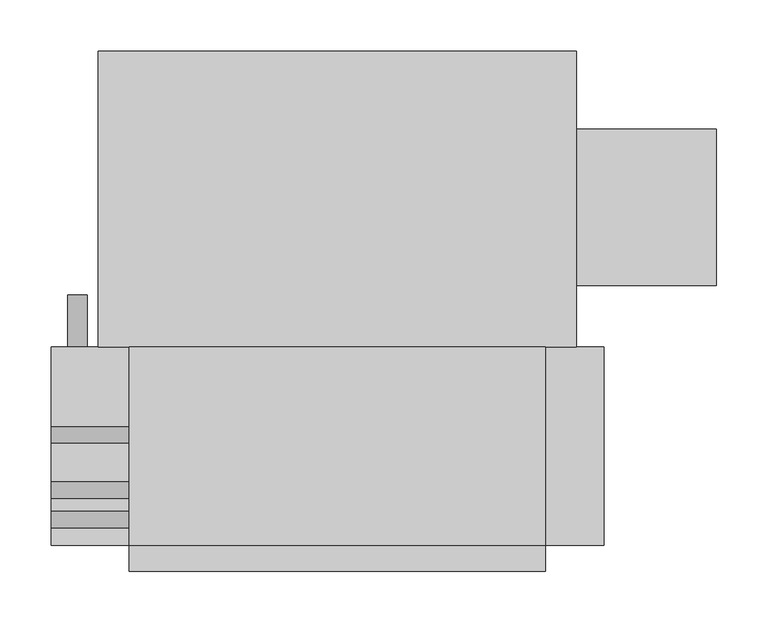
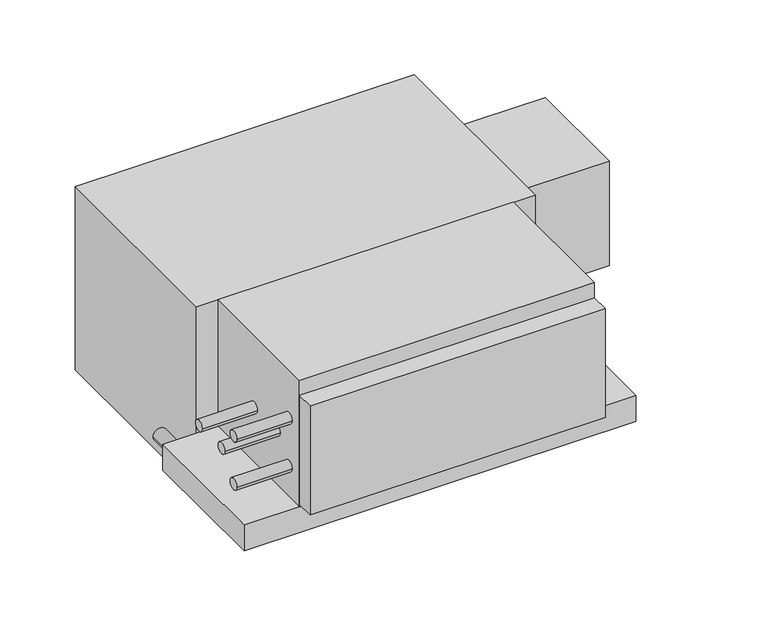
"""IFC4 building model written with IfcOpenShell, lengths in millimetres: proxy geometry, Concealed_Horizontal_Fan_Coil_Unit_With_Plenum_-_42CEA_-_CARRIER_-_4-Pipe_LH_2022 : Size 02 - 277v/60Hz/1Ph - 4/1 Coil."""

from ifc_helpers import new_model, si_unit, point, frame, frame_2d, origin, place, context, project, spatial, polyline, circle_curve, trimmed, segment, composite_curve, outline, extrude, source, transform, mapped, element, save


def mechanical_equipment_2be2fe06(model_context):
    return source(origin(), model_context, "Body", "SweptSolid", [
        extrude(outline(composite_curve([segment(trimmed(circle_curve(frame_2d((-209.55, -101.6)), 9.525), [point((-209.55, -111.125))], [point((-209.55, -92.075))], False, "CARTESIAN"), True, "CONTINUOUS"), segment(trimmed(circle_curve(frame_2d((-209.55, -101.6)), 9.525), [point((-209.55, -92.075))], [point((-209.55, -111.125))], False, "CARTESIAN"), True, "CONTINUOUS")], self_intersect=False)), frame((0.0, -141.2875, 0.0), z_axis=(0.0, 1.0, 0.0), x_axis=(0.0, 0.0, 1.0)), (0.0, 0.0, 1.0), 50.8),
        extrude(outline(composite_curve([segment(trimmed(circle_curve(frame_2d((-309.5625, -69.85)), 7.9375), [point((-301.625, -69.85))], [point((-317.5, -69.85))], False, "CARTESIAN"), True, "CONTINUOUS"), segment(trimmed(circle_curve(frame_2d((-309.5625, -69.85)), 7.9375), [point((-317.5, -69.85))], [point((-301.625, -69.85))], False, "CARTESIAN"), True, "CONTINUOUS")], self_intersect=False)), frame((-127.0, 0.0, 0.0), z_axis=(1.0, 0.0, 0.0), x_axis=(0.0, 1.0, 0.0)), (0.0, 0.0, 1.0), 76.2),
        extrude(outline(composite_curve([segment(trimmed(circle_curve(frame_2d((-309.5625, -139.7)), 7.9375), [point((-301.625, -139.7))], [point((-317.5, -139.7))], False, "CARTESIAN"), True, "CONTINUOUS"), segment(trimmed(circle_curve(frame_2d((-309.5625, -139.7)), 7.9375), [point((-317.5, -139.7))], [point((-301.625, -139.7))], False, "CARTESIAN"), True, "CONTINUOUS")], self_intersect=False)), frame((-127.0, 0.0, 0.0), z_axis=(1.0, 0.0, 0.0), x_axis=(0.0, 1.0, 0.0)), (0.0, 0.0, 1.0), 76.2),
        extrude(outline(composite_curve([segment(trimmed(circle_curve(frame_2d((-227.0125, -104.775)), 7.9375), [point((-219.075, -104.775))], [point((-234.95, -104.775))], False, "CARTESIAN"), True, "CONTINUOUS"), segment(trimmed(circle_curve(frame_2d((-227.0125, -104.775)), 7.9375), [point((-234.95, -104.775))], [point((-219.075, -104.775))], False, "CARTESIAN"), True, "CONTINUOUS")], self_intersect=False)), frame((-127.0, 0.0, 0.0), z_axis=(1.0, 0.0, 0.0), x_axis=(0.0, 1.0, 0.0)), (0.0, 0.0, 1.0), 76.2),
        extrude(outline(composite_curve([segment(trimmed(circle_curve(frame_2d((-280.9875, -104.775)), 7.9375), [point((-273.05, -104.775))], [point((-288.925, -104.775))], False, "CARTESIAN"), True, "CONTINUOUS"), segment(trimmed(circle_curve(frame_2d((-280.9875, -104.775)), 7.9375), [point((-288.925, -104.775))], [point((-273.05, -104.775))], False, "CARTESIAN"), True, "CONTINUOUS")], self_intersect=False)), frame((-127.0, 0.0, 0.0), z_axis=(1.0, 0.0, 0.0), x_axis=(0.0, 1.0, 0.0)), (0.0, 0.0, 1.0), 76.2),
        extrude(outline(polyline([(355.6, -334.9625), (355.6, -360.3625), (-50.8, -360.3625), (-50.8, -334.9625), (355.6, -334.9625)])), frame((0.0, 0.0, -180.975), z_axis=(0.0, 0.0, 1.0), x_axis=(1.0, 0.0, 0.0)), (0.0, 0.0, 1.0), 158.75),
        extrude(outline(polyline([(355.6, -334.9625), (-50.8, -334.9625), (-50.8, -141.2875), (355.6, -141.2875), (355.6, -334.9625)])), frame((0.0, 0.0, -184.15), z_axis=(0.0, 0.0, 1.0), x_axis=(1.0, 0.0, 0.0)), (0.0, 0.0, 1.0), 184.15),
        extrude(outline(polyline([(412.75, -141.2875), (412.75, -334.9625), (-127.0, -334.9625), (-127.0, -141.2875), (412.75, -141.2875)])), frame((0.0, 0.0, -222.25), z_axis=(0.0, 0.0, 1.0), x_axis=(1.0, 0.0, 0.0)), (0.0, 0.0, 1.0), 38.1),
        extrude(outline(polyline([(522.2875, 71.4375), (522.2875, -80.9625), (385.7625, -80.9625), (385.7625, 71.4375), (522.2875, 71.4375)])), frame((0.0, 0.0, -187.325), z_axis=(0.0, 0.0, 1.0), x_axis=(1.0, 0.0, 0.0)), (0.0, 0.0, 1.0), 152.4),
        extrude(outline(polyline([(-80.9625, 147.6375), (385.7625, 147.6375), (385.7625, -141.2875), (-80.9625, -141.2875), (-80.9625, 147.6375)])), frame((0.0, 0.0, -266.7), z_axis=(0.0, 0.0, 1.0), x_axis=(1.0, 0.0, 0.0)), (0.0, 0.0, 1.0), 266.7),
    ])


if __name__ == "__main__":
    model = new_model("IFC4")
    model_context = context("Model", 3, world=origin())
    ifc_project = project(units=[si_unit("LENGTHUNIT", "METRE", prefix="MILLI")], contexts=[model_context])
    site = spatial("IfcSite", under=ifc_project)
    building = spatial("IfcBuilding", under=site)
    placement = place(None, origin())
    mechanical_equipment_shape = mechanical_equipment_2be2fe06(model_context)
    element("IfcBuildingElementProxy", 1, Name="Concealed_Horizontal_Fan_Coil_Unit_With_Plenum_-_42CEA_-_CARRIER_-_4-Pipe_LH_2022 : Size 02 - 277v/60Hz/1Ph - 4/1 Coil", ObjectType="Concealed_Horizontal_Fan_Coil_Unit_With_Plenum_-_42CEA_-_CARRIER_-_4-Pipe_LH_2022 : Size 02 - 277v/60Hz/1Ph - 4/1 Coil", at=placement, inside=building, context=model_context, shape_type="MappedRepresentation", body=[
        mapped(mechanical_equipment_shape, transform((0.0, 0.0, 0.0), x_axis=(1.0, 0.0, 0.0), y_axis=(0.0, 1.0, 0.0), z_axis=(0.0, 0.0, 1.0))),
    ])
    save(model, "model.ifc")
